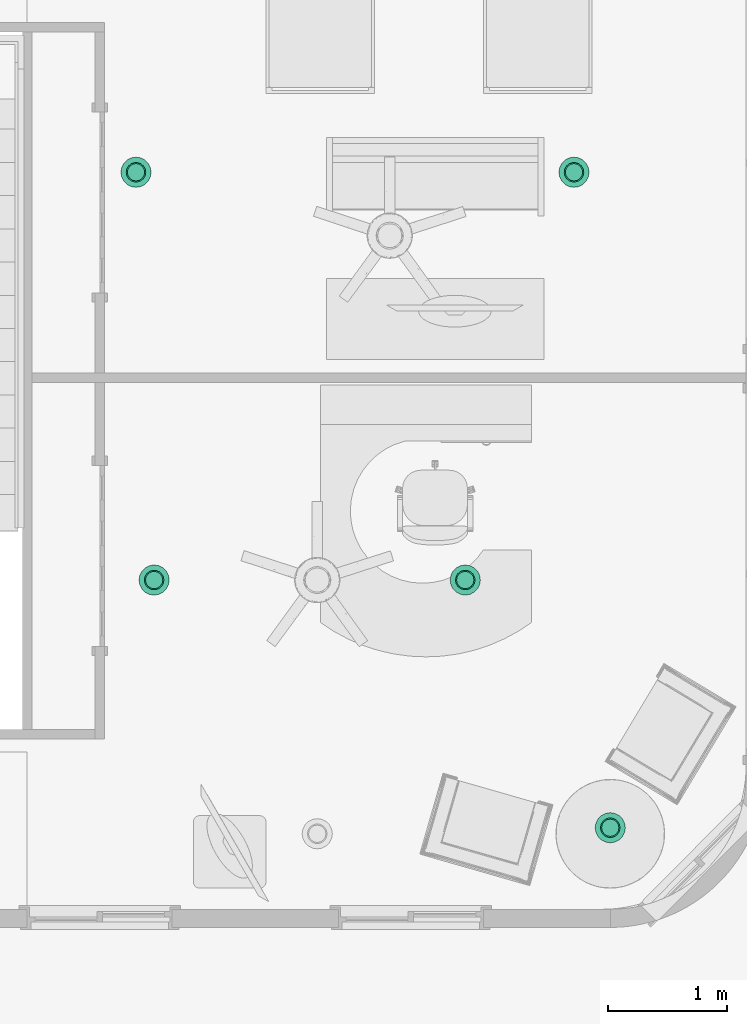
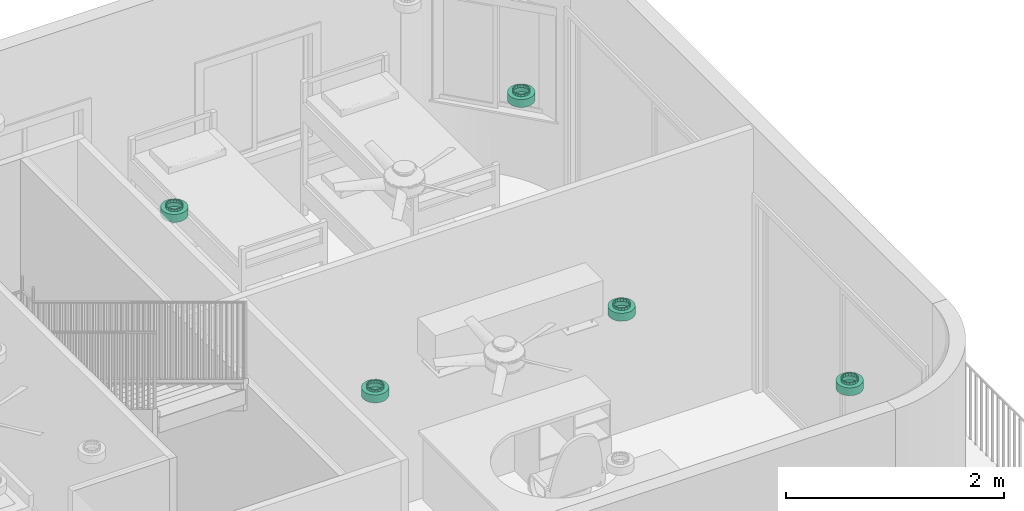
# One storey, part 19 of 28: 5 flow terminals.
"""IFC2X3 building model written with IfcOpenShell, lengths in feet."""

from ifc_helpers import new_model, entity, si_unit, converted_unit, derived_unit, direction, frame, origin, place, context, subcontext, project, spatial, faceted_brep, source, transform, mapped, material, material_list, type_object, type_shapes, element, save


model = new_model("IFC2X3")

# Units and contexts
model_context = context("Model", 3, precision=0.0001, world=origin(), true_north=direction((6.12303176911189e-17, 1.0)))
body_context = subcontext(model_context, "Body", "Model", "MODEL_VIEW")
ifc_project = project(units=[converted_unit("LENGTHUNIT", "FOOT", entity("IfcRatioMeasure", 0.3048), si_unit("LENGTHUNIT", "METRE"), dimensions=[1, 0, 0, 0, 0, 0, 0]), converted_unit("AREAUNIT", "SQUARE FOOT", entity("IfcRatioMeasure", 0.09290304), si_unit("AREAUNIT", "SQUARE_METRE"), dimensions=[2, 0, 0, 0, 0, 0, 0]), converted_unit("VOLUMEUNIT", "CUBIC FOOT", entity("IfcRatioMeasure", 0.028316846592), si_unit("VOLUMEUNIT", "CUBIC_METRE"), dimensions=[3, 0, 0, 0, 0, 0, 0]), converted_unit("PLANEANGLEUNIT", "DEGREE", entity("IfcRatioMeasure", 0.0174532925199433), si_unit("PLANEANGLEUNIT", "RADIAN"), dimensions=[0, 0, 0, 0, 0, 0, 0]), si_unit("MASSUNIT", "GRAM", prefix="KILO"), derived_unit("MASSDENSITYUNIT", [(si_unit("MASSUNIT", "GRAM", prefix="KILO"), 1), (si_unit("LENGTHUNIT", "METRE"), -3)]), si_unit("TIMEUNIT", "SECOND"), si_unit("FREQUENCYUNIT", "HERTZ"), si_unit("THERMODYNAMICTEMPERATUREUNIT", "DEGREE_CELSIUS"), derived_unit("THERMALTRANSMITTANCEUNIT", [(si_unit("MASSUNIT", "GRAM", prefix="KILO"), 1), (si_unit("THERMODYNAMICTEMPERATUREUNIT", "KELVIN"), -1), (si_unit("TIMEUNIT", "SECOND"), -3)]), derived_unit("VOLUMETRICFLOWRATEUNIT", [(si_unit("LENGTHUNIT", "METRE"), 3), (si_unit("TIMEUNIT", "SECOND"), -1)]), si_unit("ELECTRICCURRENTUNIT", "AMPERE"), si_unit("ELECTRICVOLTAGEUNIT", "VOLT"), si_unit("POWERUNIT", "WATT"), si_unit("FORCEUNIT", "NEWTON"), si_unit("ILLUMINANCEUNIT", "LUX"), si_unit("LUMINOUSFLUXUNIT", "LUMEN"), si_unit("LUMINOUSINTENSITYUNIT", "CANDELA"), derived_unit("USERDEFINED", [(si_unit("MASSUNIT", "GRAM", prefix="KILO"), -1), (si_unit("LENGTHUNIT", "METRE"), -2), (si_unit("TIMEUNIT", "SECOND"), 3), (si_unit("LUMINOUSFLUXUNIT", "LUMEN"), 1)]), derived_unit("LINEARVELOCITYUNIT", [(si_unit("LENGTHUNIT", "METRE"), 1), (si_unit("TIMEUNIT", "SECOND"), -1)]), si_unit("PRESSUREUNIT", "PASCAL"), derived_unit("USERDEFINED", [(si_unit("LENGTHUNIT", "METRE"), -2), (si_unit("MASSUNIT", "GRAM", prefix="KILO"), 1), (si_unit("TIMEUNIT", "SECOND"), -2)])], contexts=[model_context])

# Site, building, storey
site_placement = place(None, origin())
site = spatial("IfcSite", under=ifc_project, at=site_placement, Name="表面", CompositionType="ELEMENT")
building_placement = place(site_placement, origin())
building = spatial("IfcBuilding", under=site, at=building_placement, CompositionType="ELEMENT")
storey_placement = place(building_placement, frame((0.0, 0.0, 10.0)))
storey = spatial("IfcBuildingStorey", under=building, at=storey_placement, Name="Level 2", CompositionType="ELEMENT", Elevation=9.99999999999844)

# Flow terminals
ifc_material_1 = material(Name="Metal - Paint Finish - Dark Gray, Matte")
ifc_material_2 = material(Name="Glass - White, High Luminance")
ifc_material_list_1 = material_list([ifc_material_1, ifc_material_2])
ifc_material_list_2 = material_list([ifc_material_1, ifc_material_2])
light_fixture_type = type_object("IfcLightFixtureType", Name="100W - 277V", PredefinedType="NOTDEFINED", material=ifc_material_list_2)
shared_shape = source(origin(), body_context, "Body", "Brep", [
    faceted_brep([(0.557291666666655, 0.187326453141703, 0.374999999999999), (0.598651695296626, 0.245098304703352, 0.374999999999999), (0.558098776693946, 0.218001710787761, 0.374999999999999), (0.629345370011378, 0.247786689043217, 0.374999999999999), (0.517545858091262, 0.190905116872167, 0.374999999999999), (0.468904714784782, 0.155156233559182, 0.374999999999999), (0.625748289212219, 0.285651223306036, 0.374999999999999), (0.65284488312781, 0.326204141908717, 0.374999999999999), (0.676375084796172, 0.329244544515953, 0.374999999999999), (0.6623599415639, 0.374039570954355, 0.374999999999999), (0.671874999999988, 0.42187499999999, 0.374999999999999), (0.692708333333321, 0.421874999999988, 0.374999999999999), (0.676375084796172, 0.514505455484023, 0.374999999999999), (0.662359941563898, 0.469710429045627, 0.374999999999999), (0.652844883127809, 0.517545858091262, 0.374999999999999), (0.629345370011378, 0.595963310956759, 0.374999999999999), (0.625748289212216, 0.558098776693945, 0.374999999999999), (0.598651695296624, 0.598651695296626, 0.374999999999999), (0.557291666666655, 0.656423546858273, 0.374999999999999), (0.55809877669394, 0.625748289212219, 0.374999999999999), (0.517545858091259, 0.65284488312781, 0.374999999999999), (0.468904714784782, 0.688593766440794, 0.374999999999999), (0.469710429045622, 0.662359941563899, 0.374999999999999), (0.421874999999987, 0.671874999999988, 0.374999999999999), (0.374845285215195, 0.688593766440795, 0.374999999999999), (0.374039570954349, 0.662359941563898, 0.374999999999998), (0.326204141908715, 0.652844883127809, 0.374999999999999), (0.286458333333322, 0.656423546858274, 0.374999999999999), (0.285651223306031, 0.625748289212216, 0.374999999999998), (0.245098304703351, 0.598651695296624, 0.374999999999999), (0.214404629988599, 0.59596331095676, 0.374999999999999), (0.218001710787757, 0.558098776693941, 0.374999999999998), (0.190905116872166, 0.51754585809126, 0.374999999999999), (0.167374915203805, 0.514505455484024, 0.374999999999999), (0.181390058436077, 0.469710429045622, 0.374999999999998), (0.171874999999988, 0.421874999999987, 0.374999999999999), (0.151041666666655, 0.421874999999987, 0.374999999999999), (0.167374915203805, 0.329244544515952, 0.374999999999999), (0.181390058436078, 0.374039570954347, 0.374999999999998), (0.190905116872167, 0.326204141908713, 0.374999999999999), (0.214404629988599, 0.247786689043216, 0.374999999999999), (0.218001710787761, 0.28565122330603, 0.374999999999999), (0.245098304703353, 0.245098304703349, 0.374999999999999), (0.286458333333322, 0.187326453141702, 0.374999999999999), (0.285651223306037, 0.218001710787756, 0.374999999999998), (0.326204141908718, 0.190905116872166, 0.374999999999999), (0.374845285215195, 0.155156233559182, 0.374999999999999), (0.42187499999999, 0.171874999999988, 0.374999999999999), (0.374039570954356, 0.181390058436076, 0.374999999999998), (0.469710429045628, 0.181390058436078, 0.374999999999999), (0.557291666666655, 0.656423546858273, 0.291666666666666), (0.598651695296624, 0.598651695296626, 0.291666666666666), (0.55809877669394, 0.625748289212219, 0.291666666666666), (0.629345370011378, 0.595963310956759, 0.291666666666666), (0.517545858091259, 0.65284488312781, 0.291666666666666), (0.468904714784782, 0.688593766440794, 0.291666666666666), (0.625748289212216, 0.558098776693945, 0.291666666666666), (0.652844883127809, 0.517545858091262, 0.291666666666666), (0.676375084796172, 0.514505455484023, 0.291666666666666), (0.662359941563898, 0.469710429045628, 0.291666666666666), (0.671874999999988, 0.42187499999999, 0.291666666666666), (0.692708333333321, 0.421874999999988, 0.291666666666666), (0.676375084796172, 0.329244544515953, 0.291666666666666), (0.659760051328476, 0.36096904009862, 0.291666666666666), (0.65284488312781, 0.326204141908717, 0.291666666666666), (0.629345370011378, 0.247786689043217, 0.291666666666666), (0.625748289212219, 0.285651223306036, 0.291666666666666), (0.598651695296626, 0.245098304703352, 0.291666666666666), (0.557291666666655, 0.187326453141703, 0.291666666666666), (0.558098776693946, 0.218001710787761, 0.291666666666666), (0.517545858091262, 0.190905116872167, 0.291666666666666), (0.468904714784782, 0.155156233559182, 0.291666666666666), (0.469710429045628, 0.181390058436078, 0.291666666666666), (0.42187499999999, 0.171874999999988, 0.291666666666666), (0.374845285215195, 0.155156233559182, 0.291666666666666), (0.374039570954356, 0.181390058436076, 0.291666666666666), (0.326204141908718, 0.190905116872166, 0.291666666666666), (0.286458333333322, 0.187326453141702, 0.291666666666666), (0.285651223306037, 0.218001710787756, 0.291666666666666), (0.245098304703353, 0.245098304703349, 0.291666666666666), (0.214404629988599, 0.247786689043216, 0.291666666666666), (0.218001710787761, 0.28565122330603, 0.291666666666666), (0.190905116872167, 0.326204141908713, 0.291666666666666), (0.167374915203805, 0.329244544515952, 0.291666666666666), (0.181390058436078, 0.374039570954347, 0.291666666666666), (0.171874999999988, 0.421874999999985, 0.291666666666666), (0.151041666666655, 0.421874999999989, 0.291666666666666), (0.167374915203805, 0.514505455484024, 0.291666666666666), (0.183989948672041, 0.482780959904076, 0.291666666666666), (0.190905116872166, 0.51754585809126, 0.291666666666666), (0.214404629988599, 0.59596331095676, 0.291666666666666), (0.218001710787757, 0.558098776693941, 0.291666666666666), (0.245098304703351, 0.598651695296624, 0.291666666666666), (0.286458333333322, 0.656423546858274, 0.291666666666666), (0.285651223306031, 0.625748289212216, 0.291666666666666), (0.326204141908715, 0.652844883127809, 0.291666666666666), (0.374845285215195, 0.688593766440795, 0.291666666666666), (0.421874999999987, 0.671874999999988, 0.291666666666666), (0.374039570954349, 0.662359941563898, 0.291666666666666), (0.469710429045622, 0.662359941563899, 0.291666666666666)], [[[0, 1, 2]], [[1, 0, 3]], [[0, 2, 4]], [[4, 5, 0]], [[3, 6, 1]], [[3, 7, 6]], [[7, 3, 8]], [[8, 9, 7]], [[8, 10, 9]], [[10, 8, 11]], [[10, 11, 12]], [[12, 13, 10]], [[12, 14, 13]], [[15, 14, 12]], [[15, 16, 14]], [[15, 17, 16]], [[18, 17, 15]], [[18, 19, 17]], [[18, 20, 19]], [[21, 20, 18]], [[21, 22, 20]], [[21, 23, 22]], [[24, 23, 21]], [[24, 25, 23]], [[24, 26, 25]], [[27, 26, 24]], [[27, 28, 26]], [[27, 29, 28]], [[29, 27, 30]], [[30, 31, 29]], [[30, 32, 31]], [[32, 30, 33]], [[33, 34, 32]], [[33, 35, 34]], [[36, 35, 33]], [[37, 35, 36]], [[37, 38, 35]], [[37, 39, 38]], [[39, 37, 40]], [[40, 41, 39]], [[40, 42, 41]], [[42, 40, 43]], [[43, 44, 42]], [[43, 45, 44]], [[45, 43, 46]], [[47, 46, 5]], [[46, 47, 48]], [[46, 48, 45]], [[5, 4, 49]], [[5, 49, 47]], [[50, 51, 52]], [[51, 50, 53]], [[50, 52, 54]], [[54, 55, 50]], [[53, 56, 51]], [[53, 57, 56]], [[57, 53, 58]], [[58, 59, 57]], [[58, 60, 59]], [[60, 58, 61]], [[60, 61, 62]], [[62, 63, 60]], [[62, 64, 63]], [[65, 64, 62]], [[65, 66, 64]], [[65, 67, 66]], [[68, 67, 65]], [[68, 69, 67]], [[68, 70, 69]], [[71, 70, 68]], [[71, 72, 70]], [[71, 73, 72]], [[74, 73, 71]], [[74, 75, 73]], [[74, 76, 75]], [[77, 76, 74]], [[77, 78, 76]], [[77, 79, 78]], [[79, 77, 80]], [[80, 81, 79]], [[80, 82, 81]], [[82, 80, 83]], [[83, 84, 82]], [[83, 85, 84]], [[86, 85, 83]], [[87, 85, 86]], [[87, 88, 85]], [[87, 89, 88]], [[89, 87, 90]], [[90, 91, 89]], [[90, 92, 91]], [[92, 90, 93]], [[93, 94, 92]], [[93, 95, 94]], [[95, 93, 96]], [[97, 96, 55]], [[96, 97, 98]], [[96, 98, 95]], [[55, 54, 99]], [[55, 99, 97]], [[37, 36, 86, 83]], [[43, 40, 80, 77]], [[83, 80, 40, 37]], [[77, 74, 46, 43]], [[74, 71, 5, 46]], [[0, 5, 71, 68]], [[8, 3, 65, 62]], [[68, 65, 3, 0]], [[62, 61, 11, 8]], [[12, 11, 61, 58]], [[18, 15, 53, 50]], [[58, 53, 15, 12]], [[50, 55, 21, 18]], [[55, 96, 24, 21]], [[27, 24, 96, 93]], [[87, 33, 30, 90]], [[90, 30, 27, 93]], [[33, 87, 86, 36]], [[34, 35, 85, 88, 89, 32]], [[89, 91, 92, 29, 31, 32]], [[59, 60, 10, 13, 14, 57]], [[92, 94, 95, 26, 28, 29]], [[23, 25, 26, 95, 98, 97]], [[97, 99, 54, 20, 22, 23]], [[16, 17, 51, 56, 57, 14]], [[54, 52, 51, 17, 19, 20]], [[9, 10, 60, 63, 64, 7]], [[64, 66, 67, 1, 6, 7]], [[84, 85, 35, 38, 39, 82]], [[67, 69, 70, 4, 2, 1]], [[47, 49, 4, 70, 72, 73]], [[73, 75, 76, 45, 48, 47]], [[41, 42, 79, 81, 82, 39]], [[76, 78, 79, 42, 44, 45]]]),
    faceted_brep([(0.671874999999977, 0.421874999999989, 0.291666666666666), (0.838541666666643, 0.421874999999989, 0.291666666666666), (0.81814854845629, 0.550632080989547, 0.291666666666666), (0.818148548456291, 0.293117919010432, 0.291666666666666), (0.659760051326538, 0.360969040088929, 0.291666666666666), (0.662359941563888, 0.469710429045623, 0.291666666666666), (0.6528448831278, 0.326204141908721, 0.291666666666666), (0.758965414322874, 0.176964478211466, 0.291666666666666), (0.625748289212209, 0.28565122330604, 0.291666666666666), (0.598651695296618, 0.24509830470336, 0.291666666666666), (0.666785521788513, 0.084784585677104, 0.291666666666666), (0.558098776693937, 0.218001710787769, 0.291666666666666), (0.517545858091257, 0.190905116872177, 0.291666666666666), (0.550632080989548, 0.025601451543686, 0.291666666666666), (0.469710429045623, 0.181390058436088, 0.291666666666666), (0.421874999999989, 0.171874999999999, 0.291666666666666), (0.42187499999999, 0.00520833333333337, 0.291666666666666), (0.293117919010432, 0.0256014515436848, 0.291666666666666), (0.374039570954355, 0.181390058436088, 0.291666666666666), (0.326204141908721, 0.190905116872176, 0.291666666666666), (0.176964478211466, 0.0847845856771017, 0.291666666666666), (0.285651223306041, 0.218001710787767, 0.291666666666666), (0.24509830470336, 0.245098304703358, 0.291666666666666), (0.0847845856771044, 0.176964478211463, 0.291666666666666), (0.218001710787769, 0.285651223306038, 0.291666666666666), (0.190905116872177, 0.326204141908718, 0.291666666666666), (0.0256014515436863, 0.293117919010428, 0.291666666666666), (0.181390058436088, 0.374039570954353, 0.291666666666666), (0.171874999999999, 0.421874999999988, 0.291666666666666), (0.00520833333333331, 0.421874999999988, 0.291666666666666), (0.0256014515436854, 0.550632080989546, 0.291666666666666), (0.183989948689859, 0.482780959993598, 0.291666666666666), (0.190905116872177, 0.517545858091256, 0.291666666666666), (0.0847845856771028, 0.666785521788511, 0.291666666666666), (0.218001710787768, 0.558098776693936, 0.291666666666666), (0.245098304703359, 0.598651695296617, 0.291666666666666), (0.176964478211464, 0.758965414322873, 0.291666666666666), (0.285651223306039, 0.625748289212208, 0.291666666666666), (0.32620414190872, 0.652844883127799, 0.291666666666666), (0.29311791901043, 0.81814854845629, 0.291666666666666), (0.374039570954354, 0.662359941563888, 0.291666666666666), (0.421874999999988, 0.671874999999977, 0.291666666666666), (0.421874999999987, 0.838541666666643, 0.291666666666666), (0.550632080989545, 0.818148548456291, 0.291666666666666), (0.469710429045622, 0.662359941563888, 0.291666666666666), (0.517545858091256, 0.6528448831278, 0.291666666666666), (0.666785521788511, 0.758965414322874, 0.291666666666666), (0.558098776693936, 0.625748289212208, 0.291666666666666), (0.598651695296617, 0.598651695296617, 0.291666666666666), (0.758965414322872, 0.666785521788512, 0.291666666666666), (0.625748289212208, 0.558098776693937, 0.291666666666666), (0.652844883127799, 0.517545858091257, 0.291666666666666), (0.0256014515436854, 0.550632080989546, 0.0), (0.00520833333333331, 0.421874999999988, 0.0), (0.0847845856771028, 0.666785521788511, 0.0), (0.176964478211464, 0.758965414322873, 0.0), (0.29311791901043, 0.818148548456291, 0.0), (0.421874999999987, 0.838541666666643, 0.0), (0.550632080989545, 0.818148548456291, 0.0), (0.666785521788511, 0.758965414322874, 0.0), (0.758965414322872, 0.666785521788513, 0.0), (0.81814854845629, 0.550632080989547, 0.0), (0.838541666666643, 0.42187499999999, 0.0), (0.818148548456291, 0.293117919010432, 0.0), (0.666785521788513, 0.0847845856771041, 0.0), (0.550632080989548, 0.025601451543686, 0.0), (0.42187499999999, 0.00520833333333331, 0.0), (0.758965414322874, 0.176964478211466, 0.0), (0.293117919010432, 0.0256014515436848, 0.0), (0.176964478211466, 0.0847845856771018, 0.0), (0.0847845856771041, 0.176964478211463, 0.0), (0.025601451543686, 0.293117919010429, 0.0), (0.421874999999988, 0.421874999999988, 0.0), (0.808241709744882, 0.547413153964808, 0.0104166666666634), (0.421874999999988, 0.421874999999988, 0.0104166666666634), (0.828124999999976, 0.421874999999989, 0.0104166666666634), (0.7505381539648, 0.660662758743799, 0.0104166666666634), (0.660662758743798, 0.750538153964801, 0.0104166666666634), (0.547413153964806, 0.808241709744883, 0.0104166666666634), (0.421874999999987, 0.828124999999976, 0.0104166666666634), (0.296336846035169, 0.808241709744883, 0.0104166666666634), (0.183087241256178, 0.750538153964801, 0.0104166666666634), (0.0932118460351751, 0.660662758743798, 0.0104166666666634), (0.0355082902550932, 0.547413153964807, 0.0104166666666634), (0.0156249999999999, 0.421874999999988, 0.0104166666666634), (0.0355082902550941, 0.296336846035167, 0.0104166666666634), (0.0932118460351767, 0.183087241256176, 0.0104166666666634), (0.18308724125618, 0.093211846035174, 0.0104166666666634), (0.296336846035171, 0.0355082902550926, 0.0104166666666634), (0.42187499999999, 0.0156249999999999, 0.0104166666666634), (0.547413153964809, 0.0355082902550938, 0.0104166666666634), (0.6606627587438, 0.0932118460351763, 0.0104166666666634), (0.750538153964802, 0.183087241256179, 0.0104166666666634), (0.808241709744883, 0.296336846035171, 0.0104166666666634), (0.0355082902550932, 0.547413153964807, 0.281249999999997), (0.0156249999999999, 0.421874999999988, 0.281249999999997), (0.0932118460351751, 0.660662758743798, 0.281249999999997), (0.183087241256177, 0.750538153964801, 0.281249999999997), (0.296336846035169, 0.808241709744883, 0.281249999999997), (0.421874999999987, 0.828124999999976, 0.281249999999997), (0.660662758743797, 0.750538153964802, 0.281249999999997), (0.547413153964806, 0.808241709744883, 0.281249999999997), (0.808241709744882, 0.547413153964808, 0.281249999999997), (0.7505381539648, 0.660662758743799, 0.281249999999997), (0.828124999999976, 0.42187499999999, 0.281249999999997), (0.808241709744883, 0.296336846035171, 0.281249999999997), (0.547413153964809, 0.0355082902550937, 0.281249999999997), (0.6606627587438, 0.0932118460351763, 0.281249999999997), (0.42187499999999, 0.0156249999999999, 0.281249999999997), (0.750538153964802, 0.183087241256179, 0.281249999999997), (0.183087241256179, 0.0932118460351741, 0.281249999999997), (0.296336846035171, 0.0355082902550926, 0.281249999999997), (0.0355082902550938, 0.296336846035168, 0.281249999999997), (0.0932118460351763, 0.183087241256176, 0.281249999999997), (0.66145833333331, 0.421874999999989, 0.281249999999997), (0.650878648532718, 0.475062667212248, 0.281249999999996), (0.643221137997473, 0.513559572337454, 0.281249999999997), (0.650878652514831, 0.368687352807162, 0.281249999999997), (0.643221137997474, 0.330190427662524, 0.281249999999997), (0.617253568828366, 0.291327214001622, 0.281249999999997), (0.591285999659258, 0.25246400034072, 0.281249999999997), (0.552422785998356, 0.226496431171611, 0.281249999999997), (0.513559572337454, 0.200528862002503, 0.281249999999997), (0.467717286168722, 0.191410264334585, 0.281249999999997), (0.421874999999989, 0.182291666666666, 0.281249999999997), (0.376032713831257, 0.191410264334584, 0.281249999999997), (0.330190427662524, 0.200528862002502, 0.281249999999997), (0.291327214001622, 0.22649643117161, 0.281249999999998), (0.25246400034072, 0.252464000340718, 0.281249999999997), (0.226496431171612, 0.29132721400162, 0.281249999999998), (0.200528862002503, 0.330190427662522, 0.281249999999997), (0.191410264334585, 0.376032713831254, 0.281249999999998), (0.182291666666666, 0.421874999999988, 0.281249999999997), (0.192871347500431, 0.47506264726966, 0.281249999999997), (0.200528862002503, 0.513559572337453, 0.281249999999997), (0.226496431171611, 0.552422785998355, 0.281249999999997), (0.252464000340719, 0.591285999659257, 0.281249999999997), (0.291327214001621, 0.617253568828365, 0.281249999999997), (0.330190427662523, 0.643221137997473, 0.281249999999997), (0.376032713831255, 0.652339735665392, 0.281249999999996), (0.421874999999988, 0.66145833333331, 0.281249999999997), (0.46771728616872, 0.652339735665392, 0.281249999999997), (0.513559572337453, 0.643221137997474, 0.281249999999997), (0.591285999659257, 0.591285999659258, 0.281249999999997), (0.552422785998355, 0.617253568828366, 0.281249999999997), (0.617253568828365, 0.552422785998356, 0.281249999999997), (0.191410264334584, 0.467717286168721, 0.375), (0.182291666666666, 0.421874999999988, 0.375), (0.200528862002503, 0.513559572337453, 0.375), (0.252464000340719, 0.591285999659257, 0.375), (0.226496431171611, 0.552422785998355, 0.375), (0.330190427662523, 0.643221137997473, 0.375), (0.291327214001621, 0.617253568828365, 0.375), (0.421874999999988, 0.66145833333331, 0.375), (0.376032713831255, 0.652339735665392, 0.375), (0.552422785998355, 0.617253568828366, 0.375), (0.513559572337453, 0.643221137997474, 0.375), (0.591285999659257, 0.591285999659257, 0.375), (0.643221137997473, 0.513559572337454, 0.375), (0.617253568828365, 0.552422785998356, 0.375), (0.46771728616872, 0.652339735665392, 0.375), (0.652339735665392, 0.467717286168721, 0.375), (0.66145833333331, 0.421874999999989, 0.375), (0.652339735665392, 0.376032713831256, 0.375), (0.643221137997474, 0.330190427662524, 0.375), (0.591285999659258, 0.25246400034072, 0.375), (0.617253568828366, 0.291327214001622, 0.375), (0.513559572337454, 0.200528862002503, 0.375), (0.552422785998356, 0.226496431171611, 0.375), (0.421874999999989, 0.182291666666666, 0.375), (0.467717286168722, 0.191410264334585, 0.375), (0.200528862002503, 0.330190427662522, 0.375), (0.192871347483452, 0.368687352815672, 0.375), (0.25246400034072, 0.252464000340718, 0.375), (0.291327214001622, 0.22649643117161, 0.375), (0.330190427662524, 0.200528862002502, 0.375), (0.226496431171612, 0.29132721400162, 0.375), (0.376032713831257, 0.191410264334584, 0.375), (0.671874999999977, 0.421874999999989, 0.375), (0.659760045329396, 0.482780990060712, 0.375), (0.652844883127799, 0.517545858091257, 0.375), (0.662359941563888, 0.374039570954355, 0.375), (0.6528448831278, 0.326204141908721, 0.375), (0.625748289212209, 0.28565122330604, 0.375), (0.598651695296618, 0.24509830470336, 0.375), (0.558098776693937, 0.218001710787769, 0.375), (0.517545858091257, 0.190905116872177, 0.375), (0.469710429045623, 0.181390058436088, 0.375), (0.421874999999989, 0.171874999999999, 0.375), (0.374039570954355, 0.181390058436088, 0.375), (0.326204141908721, 0.190905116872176, 0.375), (0.285651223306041, 0.218001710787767, 0.375), (0.24509830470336, 0.245098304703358, 0.375), (0.218001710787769, 0.285651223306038, 0.375), (0.190905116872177, 0.326204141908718, 0.375), (0.183989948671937, 0.360969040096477, 0.375), (0.171874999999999, 0.421874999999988, 0.375), (0.181390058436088, 0.469710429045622, 0.375), (0.190905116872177, 0.517545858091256, 0.375), (0.218001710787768, 0.558098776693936, 0.375), (0.245098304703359, 0.598651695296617, 0.375), (0.285651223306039, 0.625748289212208, 0.375), (0.32620414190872, 0.652844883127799, 0.375), (0.374039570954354, 0.662359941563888, 0.375), (0.421874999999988, 0.671874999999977, 0.375), (0.469710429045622, 0.662359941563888, 0.375), (0.517545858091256, 0.6528448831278, 0.375), (0.558098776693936, 0.625748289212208, 0.375), (0.598651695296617, 0.598651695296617, 0.375), (0.625748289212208, 0.558098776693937, 0.375)], [[[0, 1, 2]], [[0, 3, 1]], [[3, 0, 4]], [[2, 5, 0]], [[3, 4, 6]], [[7, 3, 6]], [[7, 6, 8]], [[7, 8, 9]], [[10, 7, 9]], [[10, 9, 11]], [[10, 11, 12]], [[10, 12, 13]], [[13, 12, 14]], [[13, 14, 15]], [[16, 13, 15]], [[16, 15, 17]], [[17, 15, 18]], [[17, 18, 19]], [[17, 19, 20]], [[20, 19, 21]], [[20, 21, 22]], [[23, 20, 22]], [[23, 22, 24]], [[23, 24, 25]], [[25, 26, 23]], [[26, 25, 27]], [[26, 27, 28]], [[29, 26, 28]], [[30, 29, 28]], [[30, 28, 31]], [[30, 31, 32]], [[30, 32, 33]], [[33, 32, 34]], [[33, 34, 35]], [[36, 33, 35]], [[36, 35, 37]], [[36, 37, 38]], [[39, 36, 38]], [[39, 38, 40]], [[39, 40, 41]], [[42, 39, 41]], [[42, 41, 43]], [[43, 41, 44]], [[43, 44, 45]], [[46, 43, 45]], [[46, 45, 47]], [[46, 47, 48]], [[46, 48, 49]], [[49, 48, 50]], [[49, 50, 51]], [[49, 51, 2]], [[2, 51, 5]], [[52, 53, 29, 30]], [[30, 33, 54, 52]], [[36, 55, 54, 33]], [[55, 36, 39, 56]], [[56, 39, 42, 57]], [[58, 43, 46, 59]], [[60, 49, 2, 61]], [[46, 49, 60, 59]], [[61, 2, 1, 62]], [[43, 58, 57, 42]], [[1, 3, 63, 62]], [[64, 10, 13, 65]], [[16, 66, 65, 13]], [[63, 3, 7, 67]], [[10, 64, 67, 7]], [[68, 17, 20, 69]], [[70, 23, 26, 71]], [[20, 23, 70, 69]], [[71, 26, 29, 53]], [[17, 68, 66, 16]], [[62, 72, 61]], [[62, 63, 72]], [[72, 63, 67]], [[72, 67, 64]], [[72, 64, 65]], [[65, 66, 72]], [[68, 72, 66]], [[72, 68, 69]], [[72, 69, 70]], [[71, 72, 70]], [[72, 71, 53]], [[72, 53, 52]], [[72, 52, 54]], [[54, 55, 72]], [[72, 55, 56]], [[56, 57, 72]], [[72, 57, 58]], [[59, 72, 58]], [[72, 59, 60]], [[61, 72, 60]], [[73, 74, 75]], [[76, 74, 73]], [[76, 77, 74]], [[78, 74, 77]], [[78, 79, 74]], [[74, 79, 80]], [[80, 81, 74]], [[74, 81, 82]], [[82, 83, 74]], [[83, 84, 74]], [[84, 85, 74]], [[86, 74, 85]], [[86, 87, 74]], [[87, 88, 74]], [[89, 74, 88]], [[74, 89, 90]], [[90, 91, 74]], [[91, 92, 74]], [[92, 93, 74]], [[74, 93, 75]], [[94, 95, 84, 83]], [[82, 96, 94, 83]], [[96, 82, 81, 97]], [[81, 80, 98, 97]], [[98, 80, 79, 99]], [[100, 101, 78, 77]], [[102, 103, 76, 73]], [[77, 76, 103, 100]], [[104, 102, 73, 75]], [[79, 78, 101, 99]], [[105, 104, 75, 93]], [[106, 107, 91, 90]], [[108, 106, 90, 89]], [[93, 92, 109, 105]], [[109, 92, 91, 107]], [[110, 111, 88, 87]], [[112, 113, 86, 85]], [[87, 86, 113, 110]], [[95, 112, 85, 84]], [[89, 88, 111, 108]], [[102, 104, 114]], [[102, 114, 115]], [[102, 115, 116]], [[102, 116, 103]], [[104, 105, 114]], [[105, 117, 114]], [[105, 118, 117]], [[118, 105, 109]], [[109, 119, 118]], [[109, 120, 119]], [[120, 109, 107]], [[107, 121, 120]], [[107, 122, 121]], [[106, 122, 107]], [[106, 123, 122]], [[106, 124, 123]], [[124, 106, 108]], [[111, 124, 108]], [[111, 125, 124]], [[111, 126, 125]], [[110, 126, 111]], [[110, 127, 126]], [[110, 128, 127]], [[128, 110, 113]], [[113, 129, 128]], [[113, 130, 129]], [[113, 112, 130]], [[112, 131, 130]], [[112, 132, 131]], [[132, 112, 95]], [[132, 95, 94]], [[94, 133, 132]], [[94, 134, 133]], [[96, 134, 94]], [[96, 135, 134]], [[96, 136, 135]], [[136, 96, 97]], [[97, 137, 136]], [[97, 138, 137]], [[138, 97, 98]], [[98, 139, 138]], [[98, 140, 139]], [[140, 98, 99]], [[101, 140, 99]], [[101, 141, 140]], [[101, 142, 141]], [[142, 101, 100]], [[103, 143, 100]], [[100, 143, 144]], [[100, 144, 142]], [[103, 116, 145]], [[103, 145, 143]], [[146, 147, 132, 133, 134, 148]], [[136, 149, 150, 148, 134, 135]], [[136, 137, 138, 151, 152, 149]], [[151, 138, 139, 140, 153, 154]], [[155, 156, 142, 144, 143, 157]], [[116, 158, 159, 157, 143, 145]], [[153, 140, 141, 142, 156, 160]], [[161, 158, 116, 115, 114, 162]], [[163, 162, 114, 117, 118, 164]], [[120, 165, 166, 164, 118, 119]], [[120, 121, 122, 167, 168, 165]], [[123, 124, 169, 170, 167, 122]], [[171, 130, 131, 132, 147, 172]], [[128, 173, 174, 175, 126, 127]], [[128, 129, 130, 171, 176, 173]], [[175, 177, 169, 124, 125, 126]], [[162, 178, 179]], [[162, 179, 180]], [[180, 161, 162]], [[162, 181, 178]], [[162, 182, 181]], [[182, 162, 163]], [[182, 163, 164]], [[164, 183, 182]], [[164, 184, 183]], [[184, 164, 166]], [[184, 166, 165]], [[165, 185, 184]], [[165, 186, 185]], [[186, 165, 168]], [[186, 168, 167]], [[167, 187, 186]], [[167, 188, 187]], [[188, 167, 170]], [[188, 170, 169]], [[188, 169, 177]], [[188, 177, 175]], [[175, 189, 188]], [[175, 190, 189]], [[190, 175, 174]], [[190, 174, 173]], [[173, 191, 190]], [[173, 192, 191]], [[192, 173, 176]], [[192, 176, 171]], [[171, 193, 192]], [[171, 194, 193]], [[194, 171, 172]], [[194, 172, 147]], [[147, 195, 194]], [[147, 196, 195]], [[147, 197, 196]], [[147, 198, 197]], [[198, 147, 146]], [[198, 146, 148]], [[148, 199, 198]], [[148, 200, 199]], [[200, 148, 150]], [[200, 150, 149]], [[149, 201, 200]], [[149, 202, 201]], [[202, 149, 152]], [[202, 152, 151]], [[151, 203, 202]], [[151, 204, 203]], [[204, 151, 154]], [[204, 154, 153]], [[204, 153, 160]], [[204, 160, 156]], [[156, 205, 204]], [[156, 206, 205]], [[206, 156, 155]], [[206, 155, 157]], [[157, 207, 206]], [[157, 208, 207]], [[208, 157, 159]], [[208, 159, 158]], [[158, 180, 209]], [[180, 158, 161]], [[158, 209, 208]], [[198, 32, 31, 28, 196, 197]], [[199, 200, 35, 34, 32, 198]], [[200, 201, 202, 38, 37, 35]], [[40, 38, 202, 203, 204, 41]], [[47, 45, 206, 207, 208, 48]], [[178, 0, 5, 51, 180, 179]], [[208, 209, 180, 51, 50, 48]], [[45, 44, 41, 204, 205, 206]], [[182, 6, 4, 0, 178, 181]], [[183, 184, 9, 8, 6, 182]], [[184, 185, 186, 12, 11, 9]], [[187, 188, 15, 14, 12, 186]], [[195, 196, 28, 27, 25, 194]], [[191, 192, 22, 21, 19, 190]], [[192, 193, 194, 25, 24, 22]], [[19, 18, 15, 188, 189, 190]]]),
])
type_shapes(light_fixture_type, [shared_shape])
flow_terminal_1_placement = place(storey_placement, frame((27.3765452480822, -4.23948130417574, 9.125)))
element("IfcFlowTerminal", 1, at=flow_terminal_1_placement, inside=storey, type_object=light_fixture_type, material=ifc_material_list_1, Name="Ceiling Light - Flat Round:100W - 277V", ObjectType="100W - 277V", context=body_context, shape_type="MappedRepresentation", body=[
    mapped(shared_shape, transform((0.0, 0.0, 0.0), scale=1.0)),
])
ifc_material_list_3 = material_list([ifc_material_1, ifc_material_2])
flow_terminal_2_placement = place(storey_placement, frame((18.7932119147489, -4.23948130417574, 9.125)))
element("IfcFlowTerminal", 2, at=flow_terminal_2_placement, inside=storey, type_object=light_fixture_type, material=ifc_material_list_3, Name="Ceiling Light - Flat Round:100W - 277V", ObjectType="100W - 277V", context=body_context, shape_type="MappedRepresentation", body=[
    mapped(shared_shape, transform((0.0, 0.0, 0.0), scale=1.0)),
])
ifc_material_list_4 = material_list([ifc_material_1, ifc_material_2])
flow_terminal_3_placement = place(storey_placement, frame((18.2932119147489, 7.01051869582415, 9.125)))
element("IfcFlowTerminal", 3, at=flow_terminal_3_placement, inside=storey, type_object=light_fixture_type, material=ifc_material_list_4, Name="Ceiling Light - Flat Round:100W - 277V", ObjectType="100W - 277V", context=body_context, shape_type="MappedRepresentation", body=[
    mapped(shared_shape, transform((0.0, 0.0, 0.0), scale=1.0)),
])
ifc_material_list_5 = material_list([ifc_material_1, ifc_material_2])
flow_terminal_4_placement = place(storey_placement, frame((30.3765452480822, 7.01051869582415, 9.125)))
element("IfcFlowTerminal", 4, at=flow_terminal_4_placement, inside=storey, type_object=light_fixture_type, material=ifc_material_list_5, Name="Ceiling Light - Flat Round:100W - 277V", ObjectType="100W - 277V", context=body_context, shape_type="MappedRepresentation", body=[
    mapped(shared_shape, transform((0.0, 0.0, 0.0), scale=1.0)),
])
ifc_material_list_6 = material_list([ifc_material_1, ifc_material_2])
flow_terminal_5_placement = place(storey_placement, frame((31.3765452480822, -11.0728146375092, 9.125)))
element("IfcFlowTerminal", 5, at=flow_terminal_5_placement, inside=storey, type_object=light_fixture_type, material=ifc_material_list_6, Name="Ceiling Light - Flat Round:100W - 277V", ObjectType="100W - 277V", context=body_context, shape_type="MappedRepresentation", body=[
    mapped(shared_shape, transform((0.0, 0.0, 0.0), scale=1.0)),
])

save(model, "model.ifc")
